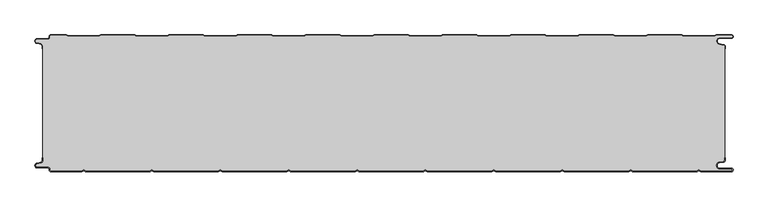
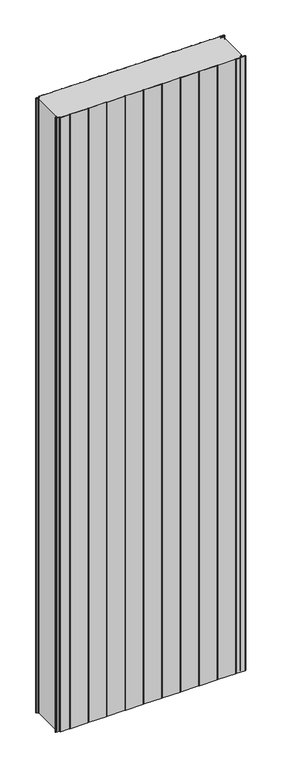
"""IFC4 building model written with IfcOpenShell, lengths in millimetres: plate geometry, PMH_Curtain-Panel_Perfil-Estándar : ACH_PMH_Panel-Acústico-Sectorización_200M."""

from ifc_helpers import new_model, si_unit, point, frame_2d, origin, origin_with_axes, place, context, project, spatial, polyline, circle_curve, trimmed, segment, composite_curve, outline, extrude, source, transform, mapped, element, save


def plate_02edb116(model_context):
    return source(origin(), model_context, "Body", "SweptSolid", [
        extrude(outline(composite_curve([segment(polyline([(-500.0, 15.878557), (-500.0, 20.0), (-499.2, 20.0), (-499.2, 15.878557)]), True, "CONTINUOUS"), segment(trimmed(circle_curve(frame_2d((-502.0, 15.878557)), 2.8), [point((-499.2, 15.878557))], [point((-501.370137, 13.1503208))], False, "CARTESIAN"), True, "CONTINUOUS"), segment(polyline([(-501.370137, 13.1503208), (-507.529863, 11.728236)]), True, "CONTINUOUS"), segment(trimmed(circle_curve(frame_2d((-506.9, 9.0)), 2.8), [point((-507.529863, 11.728236))], [point((-506.9, 6.2))], True, "CARTESIAN"), True, "CONTINUOUS"), segment(polyline([(-506.9, 6.2), (-491.4, 6.2)]), True, "CONTINUOUS"), segment(trimmed(circle_curve(frame_2d((-491.4, 3.4)), 2.8), [point((-491.4, 6.2))], [point((-488.6, 3.4))], False, "CARTESIAN"), True, "CONTINUOUS"), segment(polyline([(-488.6, 3.4), (-488.6, 2.0)]), True, "CONTINUOUS"), segment(trimmed(circle_curve(frame_2d((-487.4, 2.0)), 1.2), [point((-488.6, 2.0))], [point((-487.4, 0.8))], True, "CARTESIAN"), True, "CONTINUOUS"), segment(polyline([(-487.4, 0.8), (-442.3143588, 0.8), (-439.4, 2.482606), (-436.4856412, 0.8), (-342.3143588, 0.8), (-339.4, 2.482606), (-336.4856412, 0.8), (-242.3143588, 0.8), (-239.4, 2.482606), (-236.4856412, 0.8), (-142.3143588, 0.8), (-139.4, 2.482606), (-136.4856412, 0.8), (-42.3143588, 0.8), (-39.4, 2.482606), (-36.4856412, 0.8), (57.6856412, 0.8), (60.6, 2.482606), (63.5143588, 0.8), (157.6856412, 0.8), (160.6, 2.482606), (163.5143588, 0.8), (257.6856412, 0.8), (260.6, 2.482606), (263.5143588, 0.8), (357.6856412, 0.8), (360.6, 2.482606), (363.5143588, 0.8), (457.6856412, 0.8), (460.6, 2.482606), (463.5143588, 0.8), (508.1, 0.8)]), True, "CONTINUOUS"), segment(trimmed(circle_curve(frame_2d((508.1, 2.5)), 1.7), [point((508.1, 0.8))], [point((508.1, 4.2))], True, "CARTESIAN"), True, "CONTINUOUS"), segment(polyline([(508.1, 4.2), (491.1, 4.2)]), True, "CONTINUOUS"), segment(trimmed(circle_curve(frame_2d((491.1, 9.0)), 4.8), [point((491.1, 4.2))], [point((490.2664884, 13.7270771))], False, "CARTESIAN"), True, "CONTINUOUS"), segment(polyline([(490.2664884, 13.7270771), (496.7125669, 14.8636953)]), True, "CONTINUOUS"), segment(trimmed(circle_curve(frame_2d((496.4, 16.6363492)), 1.8), [point((496.7125669, 14.8636953))], [point((498.2, 16.6363492))], True, "CARTESIAN"), True, "CONTINUOUS"), segment(polyline([(498.2, 16.6363492), (498.2, 20.0), (499.0, 20.0), (499.0, 16.6363492)]), True, "CONTINUOUS"), segment(trimmed(circle_curve(frame_2d((496.4, 16.6363492)), 2.6), [point((499.0, 16.6363492))], [point((496.8514855, 14.0758491))], False, "CARTESIAN"), True, "CONTINUOUS"), segment(polyline([(496.8514855, 14.0758491), (490.405407, 12.939231)]), True, "CONTINUOUS"), segment(trimmed(circle_curve(frame_2d((491.1, 9.0)), 4.0), [point((490.405407, 12.939231))], [point((491.1, 5.0))], True, "CARTESIAN"), True, "CONTINUOUS"), segment(polyline([(491.1, 5.0), (508.1, 5.0)]), True, "CONTINUOUS"), segment(trimmed(circle_curve(frame_2d((508.1, 2.5)), 2.5), [point((508.1, 5.0))], [point((508.1, 0.0))], False, "CARTESIAN"), True, "CONTINUOUS"), segment(polyline([(508.1, 0.0), (463.2999995, 0.0), (460.6, 1.5588455), (457.9000005, 0.0), (363.2999995, 0.0), (360.6, 1.5588455), (357.9000005, 0.0), (263.2999995, 0.0), (260.6, 1.5588455), (257.9000005, 0.0), (163.2999995, 0.0), (160.6, 1.5588455), (157.9000005, 0.0), (63.2999995, 0.0), (60.6, 1.5588455), (57.9000005, 0.0), (-36.7000005, 0.0), (-39.4, 1.5588455), (-42.0999995, 0.0), (-136.7000005, 0.0), (-139.4, 1.5588455), (-142.0999995, 0.0), (-236.7000005, 0.0), (-239.4, 1.5588455), (-242.0999995, 0.0), (-336.7000005, 0.0), (-339.4, 1.5588455), (-342.0999995, 0.0), (-436.7000005, 0.0), (-439.4, 1.5588455), (-442.0999995, 0.0), (-487.4, 0.0)]), True, "CONTINUOUS"), segment(trimmed(circle_curve(frame_2d((-487.4, 2.0)), 2.0), [point((-487.4, 0.0))], [point((-489.4, 2.0))], False, "CARTESIAN"), True, "CONTINUOUS"), segment(polyline([(-489.4, 2.0), (-489.4, 3.4)]), True, "CONTINUOUS"), segment(trimmed(circle_curve(frame_2d((-491.4, 3.4)), 2.0), [point((-489.4, 3.4))], [point((-491.4, 5.4))], True, "CARTESIAN"), True, "CONTINUOUS"), segment(polyline([(-491.4, 5.4), (-506.9, 5.4)]), True, "CONTINUOUS"), segment(trimmed(circle_curve(frame_2d((-506.9, 9.0)), 3.6), [point((-506.9, 5.4))], [point((-507.7098239, 12.5077322))], False, "CARTESIAN"), True, "CONTINUOUS"), segment(polyline([(-507.7098239, 12.5077322), (-501.5500979, 13.929817)]), True, "CONTINUOUS"), segment(trimmed(circle_curve(frame_2d((-502.0, 15.878557)), 2.0), [point((-501.5500979, 13.929817))], [point((-500.0, 15.878557))], True, "CARTESIAN"), True, "CONTINUOUS")], self_intersect=False)), origin_with_axes(), (0.0, 0.0, 1.0), 3500.0),
        extrude(outline(composite_curve([segment(trimmed(circle_curve(frame_2d((-502.0, 184.121443)), 2.8), [point((-499.2, 184.121443))], [point((-501.370137, 186.8496792))], True, "CARTESIAN"), True, "CONTINUOUS"), segment(polyline([(-501.370137, 186.8496792), (-507.529863, 188.271764)]), True, "CONTINUOUS"), segment(trimmed(circle_curve(frame_2d((-506.9, 191.0)), 2.7999998), [point((-507.529863, 188.271764))], [point((-506.9, 193.7999998))], False, "CARTESIAN"), True, "CONTINUOUS"), segment(polyline([(-506.9, 193.7999998), (-491.4, 193.7999998)]), True, "CONTINUOUS"), segment(trimmed(circle_curve(frame_2d((-491.4, 196.5999998)), 2.8), [point((-491.4, 193.7999998))], [point((-488.6, 196.5999998))], True, "CARTESIAN"), True, "CONTINUOUS"), segment(polyline([(-488.6, 196.5999998), (-488.6, 198.0)]), True, "CONTINUOUS"), segment(trimmed(circle_curve(frame_2d((-487.4, 198.0)), 1.2), [point((-488.6, 198.0))], [point((-487.4, 199.2))], False, "CARTESIAN"), True, "CONTINUOUS"), segment(polyline([(-487.4, 199.2), (-464.6143592, 199.2), (-462.0162816, 197.7), (-416.7875654, 197.7), (-414.1894878, 199.2), (-364.6143592, 199.2), (-362.0162816, 197.7), (-316.7875654, 197.7), (-314.1894878, 199.2), (-264.6143592, 199.2), (-262.0162816, 197.7), (-216.7875654, 197.7), (-214.1894878, 199.2), (-164.6143592, 199.2), (-162.0162816, 197.7), (-116.7875654, 197.7), (-114.1894878, 199.2), (-64.6143592, 199.2), (-62.0162816, 197.7), (-16.7875654, 197.7), (-14.1894878, 199.2), (35.3856408, 199.2), (37.9837184, 197.7), (83.2124346, 197.7), (85.8105122, 199.2), (135.3856408, 199.2), (137.9837184, 197.7), (183.2124346, 197.7), (185.8105122, 199.2), (235.3856408, 199.2), (237.9837184, 197.7), (283.2124346, 197.7), (285.8105122, 199.2), (335.3856408, 199.2), (337.9837184, 197.7), (383.2124346, 197.7), (385.8105122, 199.2), (435.3856408, 199.2), (437.9837184, 197.7), (483.2124346, 197.7), (485.8105122, 199.2), (508.1, 199.2)]), True, "CONTINUOUS"), segment(trimmed(circle_curve(frame_2d((508.1, 197.5)), 1.7), [point((508.1, 199.2))], [point((508.1, 195.8000001))], False, "CARTESIAN"), True, "CONTINUOUS"), segment(polyline([(508.1, 195.8000001), (491.1, 195.8000001)]), True, "CONTINUOUS"), segment(trimmed(circle_curve(frame_2d((491.1, 191.0000002)), 4.7999999), [point((491.1, 195.8000001))], [point((490.266489, 186.272923))], True, "CARTESIAN"), True, "CONTINUOUS"), segment(polyline([(490.266489, 186.272923), (496.7125666, 185.1363059)]), True, "CONTINUOUS"), segment(trimmed(circle_curve(frame_2d((496.4, 183.363652)), 1.8), [point((496.7125666, 185.1363059))], [point((498.2, 183.363652))], False, "CARTESIAN"), True, "CONTINUOUS"), segment(polyline([(498.2, 183.363652), (498.2, 16.6363492)]), True, "CONTINUOUS"), segment(trimmed(circle_curve(frame_2d((496.4, 16.6363492)), 1.8), [point((498.2, 16.6363492))], [point((496.7125668, 14.8636953))], False, "CARTESIAN"), True, "CONTINUOUS"), segment(polyline([(496.7125668, 14.8636953), (490.2664883, 13.7270771)]), True, "CONTINUOUS"), segment(trimmed(circle_curve(frame_2d((491.1, 9.0)), 4.8), [point((490.2664883, 13.7270771))], [point((491.1, 4.2))], True, "CARTESIAN"), True, "CONTINUOUS"), segment(polyline([(491.1, 4.2), (508.1, 4.2)]), True, "CONTINUOUS"), segment(trimmed(circle_curve(frame_2d((508.1, 2.5)), 1.7), [point((508.1, 4.2))], [point((508.1, 0.8))], False, "CARTESIAN"), True, "CONTINUOUS"), segment(polyline([(508.1, 0.8), (463.5143587, 0.8), (460.5999999, 2.482606), (457.6856411, 0.8), (363.5143588, 0.8), (360.5999999, 2.482606), (357.6856411, 0.8), (263.5143588, 0.8), (260.5999999, 2.482606), (257.6856411, 0.8), (163.5143588, 0.8), (160.5999999, 2.482606), (157.6856411, 0.8), (63.5143588, 0.8), (60.5999999, 2.482606), (57.6856411, 0.8), (-36.4856412, 0.8), (-39.4000001, 2.482606), (-42.3143589, 0.8), (-136.4856412, 0.8), (-139.4000001, 2.482606), (-142.3143589, 0.8), (-236.4856412, 0.8), (-239.4000001, 2.482606), (-242.3143589, 0.8), (-336.4856412, 0.8), (-339.4000001, 2.482606), (-342.3143589, 0.8), (-436.4856412, 0.8), (-439.4000001, 2.482606), (-442.3143589, 0.8), (-487.4000001, 0.8)]), True, "CONTINUOUS"), segment(trimmed(circle_curve(frame_2d((-487.4000001, 2.0)), 1.2), [point((-487.4000001, 0.8))], [point((-488.6000001, 2.0))], False, "CARTESIAN"), True, "CONTINUOUS"), segment(polyline([(-488.6000001, 2.0), (-488.6000001, 3.4)]), True, "CONTINUOUS"), segment(trimmed(circle_curve(frame_2d((-491.4000001, 3.4)), 2.8), [point((-488.6000001, 3.4))], [point((-491.4000001, 6.2))], True, "CARTESIAN"), True, "CONTINUOUS"), segment(polyline([(-491.4000001, 6.2), (-506.9, 6.2)]), True, "CONTINUOUS"), segment(trimmed(circle_curve(frame_2d((-506.9, 9.0)), 2.8), [point((-506.9, 6.2))], [point((-507.5298631, 11.7282362))], False, "CARTESIAN"), True, "CONTINUOUS"), segment(polyline([(-507.5298631, 11.7282362), (-501.370137, 13.1503212)]), True, "CONTINUOUS"), segment(trimmed(circle_curve(frame_2d((-502.0, 15.8785573)), 2.8), [point((-501.370137, 13.1503212))], [point((-499.2, 15.8785573))], True, "CARTESIAN"), True, "CONTINUOUS"), segment(polyline([(-499.2, 15.8785573), (-499.2, 184.121443)]), True, "CONTINUOUS")], self_intersect=False)), origin_with_axes(), (0.0, 0.0, 1.0), 3500.0),
        extrude(outline(composite_curve([segment(polyline([(-487.4, 200.0), (-464.3999999, 200.0), (-461.8019223, 198.5), (-417.0019247, 198.5), (-414.4038471, 200.0), (-364.3999999, 200.0), (-361.8019223, 198.5), (-317.0019247, 198.5), (-314.4038471, 200.0), (-264.3999999, 200.0), (-261.8019223, 198.5), (-217.0019247, 198.5), (-214.4038471, 200.0), (-164.3999999, 200.0), (-161.8019223, 198.5), (-117.0019247, 198.5), (-114.4038471, 200.0), (-64.3999999, 200.0), (-61.8019223, 198.5), (-17.0019247, 198.5), (-14.4038471, 200.0), (35.6000001, 200.0), (38.1980777, 198.5), (82.9980753, 198.5), (85.5961529, 200.0), (135.6000001, 200.0), (138.1980777, 198.5), (182.9980753, 198.5), (185.5961529, 200.0), (235.6000001, 200.0), (238.1980777, 198.5), (282.9980753, 198.5), (285.5961529, 200.0), (335.6000001, 200.0), (338.1980777, 198.5), (382.9980753, 198.5), (385.5961529, 200.0), (435.6000001, 200.0), (438.1980777, 198.5), (482.9980753, 198.5), (485.5961529, 200.0), (508.1, 200.0)]), True, "CONTINUOUS"), segment(trimmed(circle_curve(frame_2d((508.1, 197.5)), 2.5), [point((508.1, 200.0))], [point((508.1, 195.0))], False, "CARTESIAN"), True, "CONTINUOUS"), segment(polyline([(508.1, 195.0), (491.1, 195.0)]), True, "CONTINUOUS"), segment(trimmed(circle_curve(frame_2d((491.1, 191.0)), 4.0), [point((491.1, 195.0))], [point((490.4054075, 187.060769))], True, "CARTESIAN"), True, "CONTINUOUS"), segment(polyline([(490.4054075, 187.060769), (496.8514851, 185.924152)]), True, "CONTINUOUS"), segment(trimmed(circle_curve(frame_2d((496.4, 183.363652)), 2.6), [point((496.8514851, 185.924152))], [point((499.0, 183.363652))], False, "CARTESIAN"), True, "CONTINUOUS"), segment(polyline([(499.0, 183.363652), (499.0, 180.0), (498.2, 180.0), (498.2, 183.363652)]), True, "CONTINUOUS"), segment(trimmed(circle_curve(frame_2d((496.4, 183.363652)), 1.8), [point((498.2, 183.363652))], [point((496.7125666, 185.136306))], True, "CARTESIAN"), True, "CONTINUOUS"), segment(polyline([(496.7125666, 185.136306), (490.266489, 186.2729229)]), True, "CONTINUOUS"), segment(trimmed(circle_curve(frame_2d((491.1, 191.0)), 4.8), [point((490.266489, 186.2729229))], [point((491.1, 195.8))], False, "CARTESIAN"), True, "CONTINUOUS"), segment(polyline([(491.1, 195.8), (508.1, 195.8)]), True, "CONTINUOUS"), segment(trimmed(circle_curve(frame_2d((508.1, 197.5)), 1.7), [point((508.1, 195.8))], [point((508.1, 199.2))], True, "CARTESIAN"), True, "CONTINUOUS"), segment(polyline([(508.1, 199.2), (485.8105122, 199.2), (483.2124346, 197.7), (437.9837184, 197.7), (435.3856408, 199.2), (385.8105122, 199.2), (383.2124346, 197.7), (337.9837184, 197.7), (335.3856408, 199.2), (285.8105122, 199.2), (283.2124346, 197.7), (237.9837184, 197.7), (235.3856408, 199.2), (185.8105122, 199.2), (183.2124346, 197.7), (137.9837184, 197.7), (135.3856408, 199.2), (85.8105122, 199.2), (83.2124346, 197.7), (37.9837184, 197.7), (35.3856408, 199.2), (-14.1894878, 199.2), (-16.7875654, 197.7), (-62.0162816, 197.7), (-64.6143592, 199.2), (-114.1894878, 199.2), (-116.7875654, 197.7), (-162.0162816, 197.7), (-164.6143592, 199.2), (-214.1894878, 199.2), (-216.7875654, 197.7), (-262.0162816, 197.7), (-264.6143592, 199.2), (-314.1894878, 199.2), (-316.7875654, 197.7), (-362.0162816, 197.7), (-364.6143592, 199.2), (-414.1894878, 199.2), (-416.7875654, 197.7), (-462.0162816, 197.7), (-464.6143592, 199.2), (-487.4, 199.2)]), True, "CONTINUOUS"), segment(trimmed(circle_curve(frame_2d((-487.4, 198.0)), 1.2), [point((-487.4, 199.2))], [point((-488.6, 198.0))], True, "CARTESIAN"), True, "CONTINUOUS"), segment(polyline([(-488.6, 198.0), (-488.6, 196.6)]), True, "CONTINUOUS"), segment(trimmed(circle_curve(frame_2d((-491.4, 196.6)), 2.8), [point((-488.6, 196.6))], [point((-491.4, 193.8))], False, "CARTESIAN"), True, "CONTINUOUS"), segment(polyline([(-491.4, 193.8), (-506.9, 193.8)]), True, "CONTINUOUS"), segment(trimmed(circle_curve(frame_2d((-506.9, 191.0)), 2.8), [point((-506.9, 193.8))], [point((-507.529863, 188.2717638))], True, "CARTESIAN"), True, "CONTINUOUS"), segment(polyline([(-507.529863, 188.2717638), (-501.370137, 186.849679)]), True, "CONTINUOUS"), segment(trimmed(circle_curve(frame_2d((-502.0, 184.121443)), 2.8), [point((-501.370137, 186.849679))], [point((-499.2, 184.121443))], False, "CARTESIAN"), True, "CONTINUOUS"), segment(polyline([(-499.2, 184.121443), (-499.2, 180.0), (-500.0, 180.0), (-500.0, 184.121443)]), True, "CONTINUOUS"), segment(trimmed(circle_curve(frame_2d((-502.0, 184.121443)), 2.0), [point((-500.0, 184.121443))], [point((-501.5500978, 186.0701831))], True, "CARTESIAN"), True, "CONTINUOUS"), segment(polyline([(-501.5500978, 186.0701831), (-507.7098239, 187.492268)]), True, "CONTINUOUS"), segment(trimmed(circle_curve(frame_2d((-506.9, 191.0)), 3.6), [point((-507.7098239, 187.492268))], [point((-506.9, 194.6))], False, "CARTESIAN"), True, "CONTINUOUS"), segment(polyline([(-506.9, 194.6), (-491.4, 194.6)]), True, "CONTINUOUS"), segment(trimmed(circle_curve(frame_2d((-491.4, 196.6)), 2.0), [point((-491.4, 194.6))], [point((-489.4, 196.6))], True, "CARTESIAN"), True, "CONTINUOUS"), segment(polyline([(-489.4, 196.6), (-489.4, 198.0)]), True, "CONTINUOUS"), segment(trimmed(circle_curve(frame_2d((-487.4, 198.0)), 2.0), [point((-489.4, 198.0))], [point((-487.4, 200.0))], False, "CARTESIAN"), True, "CONTINUOUS")], self_intersect=False)), origin_with_axes(), (0.0, 0.0, 1.0), 3500.0),
    ])


if __name__ == "__main__":
    model = new_model("IFC4")
    model_context = context("Model", 3, world=origin())
    ifc_project = project(units=[si_unit("LENGTHUNIT", "METRE", prefix="MILLI")], contexts=[model_context])
    site = spatial("IfcSite", under=ifc_project)
    building = spatial("IfcBuilding", under=site)
    placement = place(None, origin())
    plate_shape = plate_02edb116(model_context)
    element("IfcPlate", 1, ObjectType="PMH_Curtain-Panel_Perfil-Estándar : ACH_PMH_Panel-Acústico-Sectorización_200M", at=placement, inside=building, context=model_context, shape_type="MappedRepresentation", body=[
        mapped(plate_shape, transform((0.0, 0.0, 0.0), x_axis=(1.0, 0.0, 0.0), y_axis=(0.0, 1.0, 0.0), z_axis=(0.0, 0.0, 1.0))),
    ])
    save(model, "model.ifc")
